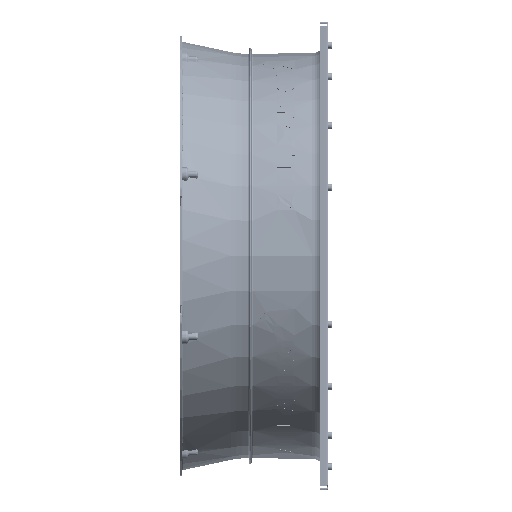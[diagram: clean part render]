
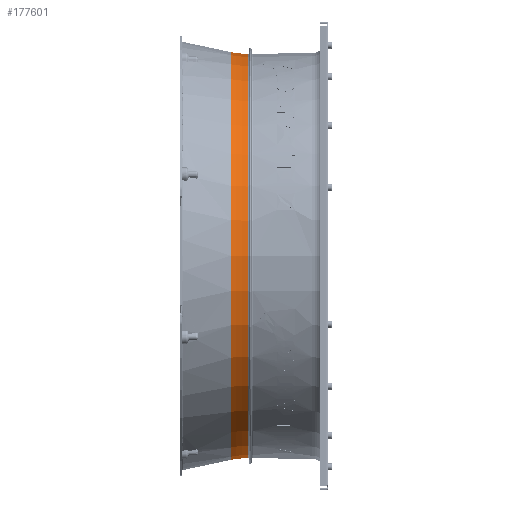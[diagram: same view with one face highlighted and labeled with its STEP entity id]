
A CAD part, top view. The second image highlights one B-rep face of the part: STEP entity #177601.
In plain terms, the highlighted toroidal (fillet/blend) face has major radius 712.262 mm and minor radius 206 mm.
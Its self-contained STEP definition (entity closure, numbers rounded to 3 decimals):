
#2755=CARTESIAN_POINT('',(11.963,712.262,
0.));
#2756=DIRECTION('',(0.,0.,-1.));
#2757=DIRECTION('',(0.003,-1.,0.));
#2758=AXIS2_PLACEMENT_3D('',#2755,#2756,#2757);
#2799=CARTESIAN_POINT('',(12.56,0.,0.));
#2800=DIRECTION('',(1.,0.,0.));
#2801=DIRECTION('',(0.,1.,0.));
#2802=AXIS2_PLACEMENT_3D('',#2799,#2800,#2801);
#2804=CARTESIAN_POINT('',(12.56,0.,0.));
#2805=DIRECTION('',(1.,0.,0.));
#2806=DIRECTION('',(0.,0.,1.));
#2807=AXIS2_PLACEMENT_3D('',#2804,#2805,#2806);
#2809=CARTESIAN_POINT('',(11.963,-712.262,
0.));
#2810=DIRECTION('',(0.,0.,1.));
#2811=DIRECTION('',(0.003,1.,0.));
#2812=AXIS2_PLACEMENT_3D('',#2809,#2810,#2811);
#20219=CARTESIAN_POINT('',(-30.867,0.,0.));
#20220=DIRECTION('',(-1.,0.,0.));
#20221=DIRECTION('',(0.,-1.,0.));
#20222=AXIS2_PLACEMENT_3D('',#20219,#20220,#20221);
#157131=CARTESIAN_POINT('',(-30.867,-510.763,
0.));
#157132=CARTESIAN_POINT('',(-30.867,510.763,
0.));
#157133=VERTEX_POINT('',#157131);
#157134=VERTEX_POINT('',#157132);
#157305=CARTESIAN_POINT('',(12.56,506.263,
0.));
#157306=CARTESIAN_POINT('',(12.56,0.,
506.263));
#157307=VERTEX_POINT('',#157305);
#157308=VERTEX_POINT('',#157306);
#157309=CARTESIAN_POINT('',(12.56,-506.263,
0.));
#157310=VERTEX_POINT('',#157309);
#177586=CARTESIAN_POINT('',(11.963,0.,0.));
#177587=DIRECTION('',(-1.,0.,0.));
#177588=DIRECTION('',(0.,-1.,0.));
#177589=AXIS2_PLACEMENT_3D('',#177586,#177587,#177588);
#177590=TOROIDAL_SURFACE('',#177589,712.262,206.);
#177592=ORIENTED_EDGE('',*,*,#177591,.T.);
#177594=ORIENTED_EDGE('',*,*,#177593,.T.);
#177595=ORIENTED_EDGE('',*,*,#177572,.T.);
#177597=ORIENTED_EDGE('',*,*,#177596,.T.);
#177598=ORIENTED_EDGE('',*,*,#177576,.F.);
#177599=EDGE_LOOP('',(#177592,#177594,#177595,#177597,#177598));
#177600=FACE_OUTER_BOUND('',#177599,.F.);
#2759=CIRCLE('',#2758,206.);
#2803=CIRCLE('',#2802,506.263);
#2808=CIRCLE('',#2807,506.263);
#2813=CIRCLE('',#2812,206.);
#20223=CIRCLE('',#20222,510.763);
#177572=EDGE_CURVE('',#157310,#157133,#2813,.T.);
#177576=EDGE_CURVE('',#157307,#157134,#2759,.T.);
#177591=EDGE_CURVE('',#157307,#157308,#2803,.T.);
#177593=EDGE_CURVE('',#157308,#157310,#2808,.T.);
#177596=EDGE_CURVE('',#157133,#157134,#20223,.T.);
#177601=ADVANCED_FACE('',(#177600),#177590,.F.);
